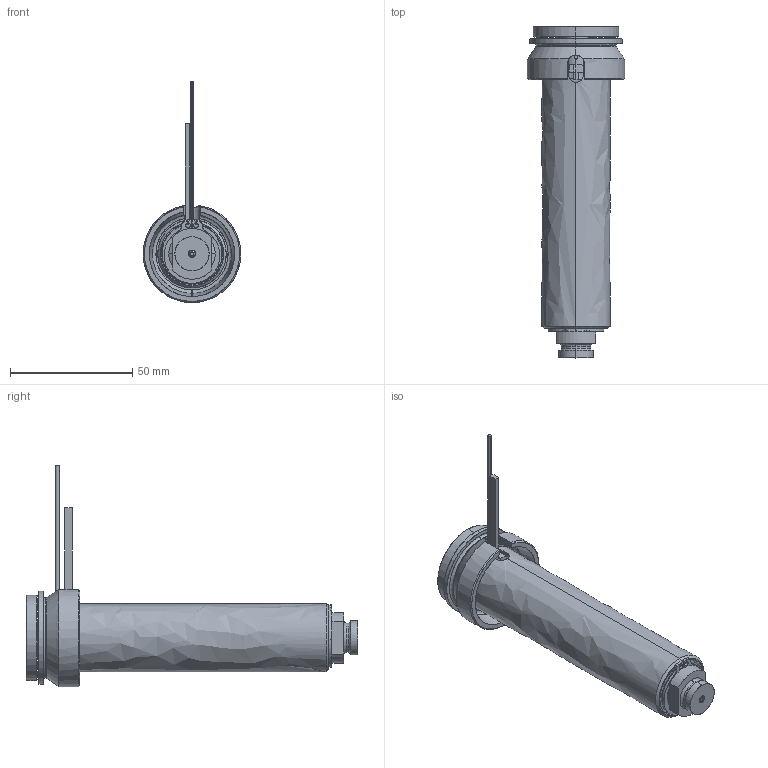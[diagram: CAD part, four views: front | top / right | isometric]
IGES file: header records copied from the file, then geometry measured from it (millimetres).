
Start section: SolidWorks IGES file using analytic representation for surfaces
Global section: file name: C:\Documents and Settings\ws-20\Desktop\TEM\UGEP4103-S-A-1 [Øf-1.31 P-0 ØC-10].IGS; native system: SolidWorks 2012; preprocessor: SolidWorks 2012; author: ws-20; date: 120426.090004; units: millimetre
Bounding box: 40 x 136 x 90.65 mm (x, y, z)
Surface area: 41550.4 mm2 (no closed solid volume)
Topology: 0 solids, 0 shells, 112 faces, 1858 edges, 1858 vertices
Faces by surface type: revolution 70, bspline 42
